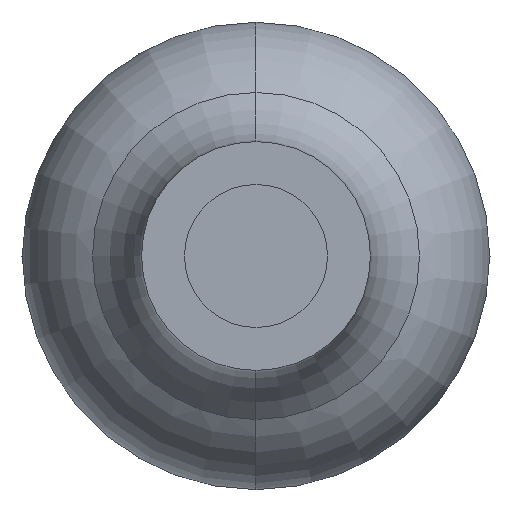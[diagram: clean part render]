
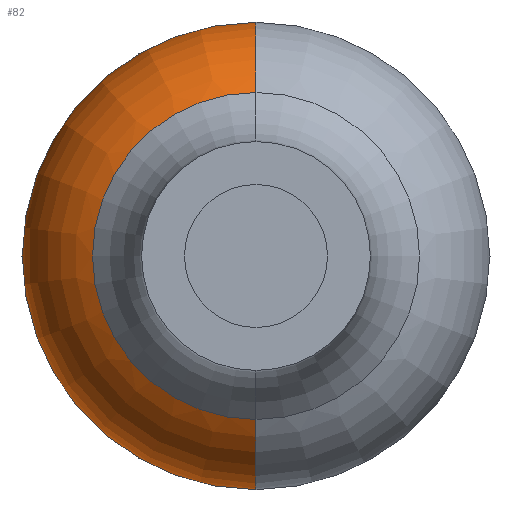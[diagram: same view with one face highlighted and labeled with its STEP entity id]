
A CAD part, left-side view. The second image highlights one B-rep face of the part: STEP entity #82.
In plain terms, the highlighted toroidal (fillet/blend) face has major radius 4.132 mm and minor radius 5.668 mm.
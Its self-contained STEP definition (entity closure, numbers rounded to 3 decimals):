
#82 = ADVANCED_FACE( '', ( #173 ), #174, .T. );
#173 = FACE_OUTER_BOUND( '', #348, .T. );
#174 = TOROIDAL_SURFACE( '', #349, 4.132, 5.668 );
#348 = EDGE_LOOP( '', ( #563, #564, #565, #566, #567, #568 ) );
#349 = AXIS2_PLACEMENT_3D( '', #569, #570, #571 );
#563 = ORIENTED_EDGE( '', *, *, #1164, .F. );
#564 = ORIENTED_EDGE( '', *, *, #1165, .T. );
#565 = ORIENTED_EDGE( '', *, *, #1166, .T. );
#566 = ORIENTED_EDGE( '', *, *, #1167, .F. );
#567 = ORIENTED_EDGE( '', *, *, #1168, .F. );
#568 = ORIENTED_EDGE( '', *, *, #1169, .F. );
#569 = CARTESIAN_POINT( '', ( -54.951, 0., 0. ) );
#570 = DIRECTION( '', ( -1., 0., 0. ) );
#571 = DIRECTION( '', ( 0., 0., 1. ) );
#1164 = EDGE_CURVE( '', #1374, #1371, #1375, .T. );
#1165 = EDGE_CURVE( '', #1374, #1376, #1377, .T. );
#1166 = EDGE_CURVE( '', #1376, #1378, #1379, .T. );
#1167 = EDGE_CURVE( '', #1369, #1378, #1380, .T. );
#1168 = EDGE_CURVE( '', #1381, #1369, #1382, .T. );
#1169 = EDGE_CURVE( '', #1371, #1381, #1383, .T. );
#1369 = VERTEX_POINT( '', #1681 );
#1371 = VERTEX_POINT( '', #1683 );
#1374 = VERTEX_POINT( '', #1686 );
#1375 = CIRCLE( '', #1687, 5.668 );
#1376 = VERTEX_POINT( '', #1688 );
#1377 = CIRCLE( '', #1689, 9.8 );
#1378 = VERTEX_POINT( '', #1690 );
#1379 = CIRCLE( '', #1691, 9.8 );
#1380 = CIRCLE( '', #1692, 5.668 );
#1381 = VERTEX_POINT( '', #1693 );
#1382 = CIRCLE( '', #1694, 6.858 );
#1383 = CIRCLE( '', #1695, 6.858 );
#1681 = CARTESIAN_POINT( '', ( -59.921, 0., -6.858 ) );
#1683 = CARTESIAN_POINT( '', ( -59.921, 0., 6.858 ) );
#1686 = CARTESIAN_POINT( '', ( -54.903, 0., 9.8 ) );
#1687 = AXIS2_PLACEMENT_3D( '', #2290, #2291, #2292 );
#1688 = CARTESIAN_POINT( '', ( -54.903, 9.8, 0. ) );
#1689 = AXIS2_PLACEMENT_3D( '', #2293, #2294, #2295 );
#1690 = CARTESIAN_POINT( '', ( -54.903, 0., -9.8 ) );
#1691 = AXIS2_PLACEMENT_3D( '', #2296, #2297, #2298 );
#1692 = AXIS2_PLACEMENT_3D( '', #2299, #2300, #2301 );
#1693 = CARTESIAN_POINT( '', ( -59.921, 6.858, 0. ) );
#1694 = AXIS2_PLACEMENT_3D( '', #2302, #2303, #2304 );
#1695 = AXIS2_PLACEMENT_3D( '', #2305, #2306, #2307 );
#2290 = CARTESIAN_POINT( '', ( -54.951, 0., 4.132 ) );
#2291 = DIRECTION( '', ( 0., -1., 0. ) );
#2292 = DIRECTION( '', ( 0., 0., 1. ) );
#2293 = CARTESIAN_POINT( '', ( -54.903, 0., 0. ) );
#2294 = DIRECTION( '', ( -1., 0., 0. ) );
#2295 = DIRECTION( '', ( 0., 1., 0. ) );
#2296 = CARTESIAN_POINT( '', ( -54.903, 0., 0. ) );
#2297 = DIRECTION( '', ( -1., 0., 0. ) );
#2298 = DIRECTION( '', ( 0., 1., 0. ) );
#2299 = CARTESIAN_POINT( '', ( -54.951, 0., -4.132 ) );
#2300 = DIRECTION( '', ( 0., -1., 0. ) );
#2301 = DIRECTION( '', ( 0., 0., -1. ) );
#2302 = CARTESIAN_POINT( '', ( -59.921, 0., 0. ) );
#2303 = DIRECTION( '', ( -1., 0., 0. ) );
#2304 = DIRECTION( '', ( 0., 1., 0. ) );
#2305 = CARTESIAN_POINT( '', ( -59.921, 0., 0. ) );
#2306 = DIRECTION( '', ( -1., 0., 0. ) );
#2307 = DIRECTION( '', ( 0., 1., 0. ) );
